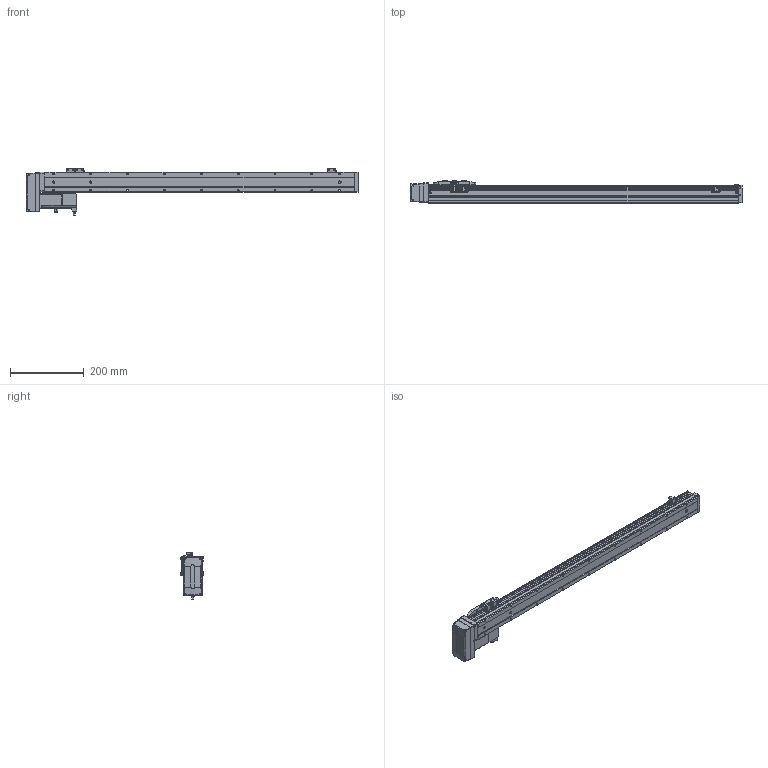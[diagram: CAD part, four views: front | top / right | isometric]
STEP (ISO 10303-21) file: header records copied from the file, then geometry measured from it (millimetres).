
FILE_DESCRIPTION (( 'STEP AP203' ), '1' );
FILE_NAME ('CTH5-L10-S700-BR-C10(¼ò).STEP', '2023-02-04T02:27:30', ( '' ), ( '' ), 'SwSTEP 2.0', 'SolidWorks 2018', '' );
FILE_SCHEMA (( 'CONFIG_CONTROL_DESIGN' ));
Length unit declared in the file: millimetre
Products named in the file (22): CTH5耜蚾欶; 葩璃 蚾饜极13^CTH8-L10-S50-BM-C40(潠)1; CTH5菁釱-L840; CTH5ヶ耜啣(潠); CTH嫖萇羲壽假蚾啣; 葩璃 蚾饜极16^CTH5-L10-S700-BR-C10(潠); CTH5-BL-T10_body5; 内六角圆柱头螺钉M3-2; CTH5覜茼え; PM-Y45; CTH5綴耜啣; CTH100W假蚾啣; T10-p1; CTH5-L10-S700-BR-C10(潠); 100W萇儂; CTH5耜晚蹟隊-1; CTH5賑怢; CTH5耜晚蹟隊; hex nuts, style 1-grades ab gb_GB_FASTENER_NUT_SNAB1 M3-N; M3｡｣; CTH5耜蚾蟀諉啣(潠); 嫖萇羲壽郪磁1
Assembly tree (37 placements, depth 4):
  CTH5-L10-S700-BR-C10(潠)
    CTH5綴耜啣
    CTH5賑怢
    CTH5ヶ耜啣(潠)
    CTH5菁釱-L840
    CTH5耜晚蹟隊  x2
    嫖萇羲壽郪磁1  x2
      CTH嫖萇羲壽假蚾啣
      PM-Y45
      M3｡｣
      内六角圆柱头螺钉M3-2
      hex nuts, style 1-grades ab gb_GB_FASTENER_NUT_SNAB1 M3-N
    CTH5覜茼え
    葩璃 蚾饜极13^CTH8-L10-S50-BM-C40(潠)1
      CTH嫖萇羲壽假蚾啣
      PM-Y45
      内六角圆柱头螺钉M3-2  x2
      M3｡｣  x2
      hex nuts, style 1-grades ab gb_GB_FASTENER_NUT_SNAB1 M3-N  x2
    CTH5耜晚蹟隊-1  x4
    葩璃 蚾饜极16^CTH5-L10-S700-BR-C10(潠)
      CTH5耜蚾蟀諉啣(潠)
      CTH5耜蚾欶
        CTH5-BL-T10_body5
      100W萇儂
        T10-p1
      CTH100W假蚾啣
Bounding box: 900 x 60 x 126.31 mm (x, y, z)
Volume: 2178625.9 mm3; surface area: 303003.7 mm2
Topology: 39 solids, 39 shells, 1631 faces, 4101 edges, 2644 vertices
Faces by surface type: plane 890, cylinder 476, cone 207, torus 40, bspline 18
Entity records: 38275 total; most frequent: CARTESIAN_POINT 7092, DIRECTION 6065, ORIENTED_EDGE 5826, EDGE_CURVE 2913, AXIS2_PLACEMENT_3D 2096, LINE 1873, VECTOR 1873, VERTEX_POINT 1872
